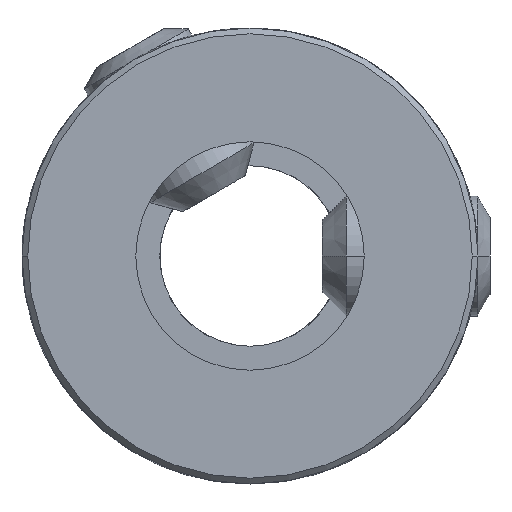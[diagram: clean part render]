
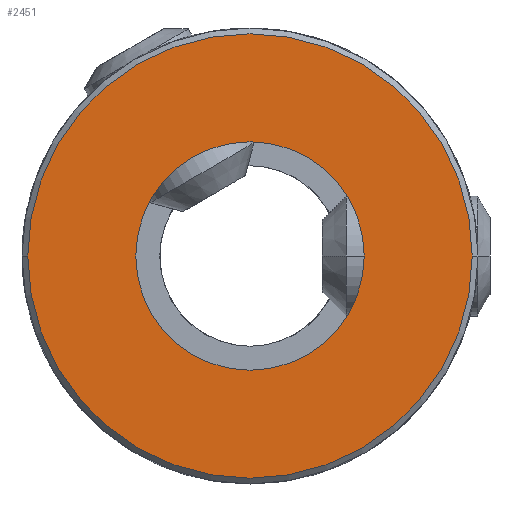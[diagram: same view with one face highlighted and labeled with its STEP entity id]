
A CAD part, front view. The second image highlights one B-rep face of the part: STEP entity #2451.
In plain terms, the highlighted planar face has unit normal (0, -1, 0).
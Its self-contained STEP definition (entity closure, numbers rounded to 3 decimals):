
#1=CARTESIAN_POINT('',(0.,-9.8,0.));
#2=DIRECTION('',(0.,-1.,0.));
#3=DIRECTION('',(-1.,0.,0.));
#4=AXIS2_PLACEMENT_3D('',#1,#2,#3);
#6=CARTESIAN_POINT('',(0.,-9.8,
0.));
#7=DIRECTION('',(0.,-1.,0.));
#8=DIRECTION('',(1.,0.,0.));
#9=AXIS2_PLACEMENT_3D('',#6,#7,#8);
#11=CARTESIAN_POINT('',(0.,-9.8,0.));
#12=DIRECTION('',(0.,1.,0.));
#13=DIRECTION('',(1.,0.,0.));
#14=AXIS2_PLACEMENT_3D('',#11,#12,#13);
#16=CARTESIAN_POINT('',(0.,-9.8,0.));
#17=DIRECTION('',(0.,1.,0.));
#18=DIRECTION('',(-1.,0.,0.));
#19=AXIS2_PLACEMENT_3D('',#16,#17,#18);
#2232=CARTESIAN_POINT('',(2.38,-9.8,0.));
#2233=CARTESIAN_POINT('',(-2.38,-9.8,0.));
#2234=VERTEX_POINT('',#2232);
#2235=VERTEX_POINT('',#2233);
#2252=CARTESIAN_POINT('',(-4.63,-9.8,0.));
#2253=CARTESIAN_POINT('',(4.63,-9.8,0.));
#2254=VERTEX_POINT('',#2252);
#2255=VERTEX_POINT('',#2253);
#2434=CARTESIAN_POINT('',(0.,-9.8,0.));
#2435=DIRECTION('',(0.,1.,0.));
#2436=DIRECTION('',(1.,0.,0.));
#2437=AXIS2_PLACEMENT_3D('',#2434,#2435,#2436);
#2438=PLANE('',#2437);
#2440=ORIENTED_EDGE('',*,*,#2439,.F.);
#2442=ORIENTED_EDGE('',*,*,#2441,.F.);
#2443=EDGE_LOOP('',(#2440,#2442));
#2444=FACE_OUTER_BOUND('',#2443,.F.);
#2446=ORIENTED_EDGE('',*,*,#2445,.F.);
#2448=ORIENTED_EDGE('',*,*,#2447,.F.);
#2449=EDGE_LOOP('',(#2446,#2448));
#2450=FACE_BOUND('',#2449,.F.);
#2451=ADVANCED_FACE('',(#2444,#2450),#2438,.F.);
#5=CIRCLE('',#4,4.63);
#10=CIRCLE('',#9,4.63);
#15=CIRCLE('',#14,2.38);
#20=CIRCLE('',#19,2.38);
#2439=EDGE_CURVE('',#2254,#2255,#5,.T.);
#2441=EDGE_CURVE('',#2255,#2254,#10,.T.);
#2445=EDGE_CURVE('',#2234,#2235,#15,.T.);
#2447=EDGE_CURVE('',#2235,#2234,#20,.T.);
